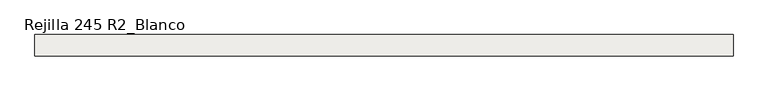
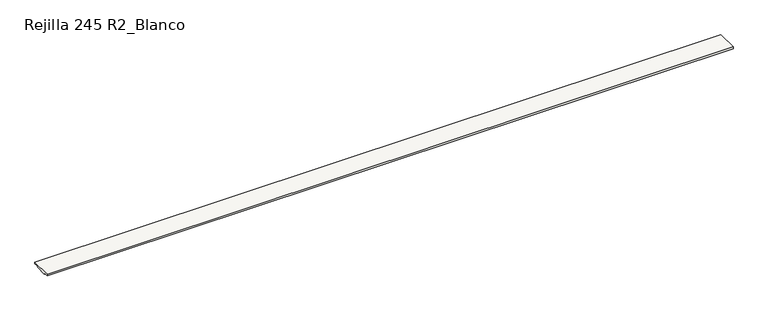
"""IFC4 building model written with IfcOpenShell, lengths in millimetres: slab geometry, ROSA GRES_245 R2 : Rejilla 245 R2_Blanco."""

import ifcopenshell
import ifcopenshell.guid

model = None  # the IFC model being written
_history = None  # IfcOwnerHistory: only IFC2X3 demands one
_inside = {}  # id of a spatial element -> (the spatial element, [elements in it])
_under = {}  # id of a project, library or spatial element -> (it, [spatial elements below it])
_declared = {}  # id of a project -> (the project, [libraries it declares])
_typed = {}  # id of a type object -> (the type object, [elements of that type])
_made_of = {}  # id of a material, layer set ... -> (it, [elements and type objects made of it])


def new_model(schema):
    """Start an empty IFC model of exactly this schema.

    Asked for "IFC4X3", IfcOpenShell would pick the latest addendum, in which some entities
    have other attributes; the version numbers below select the first issue.
    IFC2X3 requires an IfcOwnerHistory on every rooted entity: one is made here for all.
    """
    global model, _history
    if schema == "IFC4X3":
        model = ifcopenshell.file(schema_version=(4, 3, 0, 0))
    else:
        model = ifcopenshell.file(schema=schema)
    _inside.clear()
    _under.clear()
    _declared.clear()
    _typed.clear()
    _made_of.clear()
    _history = None
    if model.schema == "IFC2X3":
        org = make("IfcOrganization", Name="unknown")
        user = make(
            "IfcPersonAndOrganization",
            ThePerson=make("IfcPerson", FamilyName="unknown"),
            TheOrganization=org,
        )
        app = make(
            "IfcApplication",
            ApplicationDeveloper=org,
            Version="unknown",
            ApplicationFullName="unknown",
            ApplicationIdentifier="unknown",
        )
        _history = make(
            "IfcOwnerHistory",
            OwningUser=user,
            OwningApplication=app,
            ChangeAction="ADDED",
            CreationDate=0,
        )
    return model


def make(cls, **values):
    """One entity of the class cls with the attributes given. An attribute that is None is left unset."""
    return model.create_entity(
        cls, **{name: value for name, value in values.items() if value is not None}
    )


def rooted(cls, **values):
    """An entity with a GlobalId (a new one), such as an element, a storey or a relation."""
    return make(cls, GlobalId=ifcopenshell.guid.new(), OwnerHistory=_history, **values)


def si_unit(unit_type, name, prefix=None):
    """IfcSIUnit, for example si_unit("LENGTHUNIT", "METRE", prefix="MILLI")."""
    return make("IfcSIUnit", UnitType=unit_type, Prefix=prefix, Name=name)


def assignment(units):
    """IfcUnitAssignment: the units of a project."""
    return None if units is None else make("IfcUnitAssignment", Units=units)


def point(xyz):
    """IfcCartesianPoint."""
    return None if xyz is None else make("IfcCartesianPoint", Coordinates=xyz)


def direction(xyz):
    """IfcDirection."""
    return None if xyz is None else make("IfcDirection", DirectionRatios=xyz)


def frame(location, z_axis=None, x_axis=None):
    """IfcAxis2Placement3D, a coordinate frame: its origin and axes. An axis left out is left unset."""
    return make(
        "IfcAxis2Placement3D",
        Location=point(location),
        Axis=direction(z_axis),
        RefDirection=direction(x_axis),
    )


def origin():
    """The frame at (0, 0, 0) with its axes left unset."""
    return frame((0.0, 0.0, 0.0))


def place(relative_to, where):
    """IfcLocalPlacement: puts the frame where relative to a parent placement (None: the world)."""
    return make(
        "IfcLocalPlacement", PlacementRelTo=relative_to, RelativePlacement=where
    )


def context(
    kind, dimensions, precision=None, world=None, true_north=None, identifier=None
):
    """IfcGeometricRepresentationContext, for example the 3D "Model" context."""
    return make(
        "IfcGeometricRepresentationContext",
        ContextIdentifier=identifier,
        ContextType=kind,
        CoordinateSpaceDimension=dimensions,
        Precision=precision,
        WorldCoordinateSystem=world,
        TrueNorth=true_north,
    )


def project(units=None, contexts=None):
    """IfcProject with its units and contexts."""
    return rooted(
        "IfcProject",
        Name="project",
        RepresentationContexts=contexts,
        UnitsInContext=assignment(units),
    )


def spatial(cls, under=None, at=None, **own):
    """A site, building, storey or space (cls), placed at a placement, below another one or the project."""
    s = rooted(cls, ObjectPlacement=at, **own)
    if under is not None:
        _under.setdefault(under.id(), (under, []))[1].append(s)
    return s


def polyline(points):
    """IfcPolyline through the points."""
    return make("IfcPolyline", Points=[point(p) for p in points])


def outline(outer, holes=None, kind="AREA"):
    """IfcArbitraryClosedProfileDef: a profile drawn as a closed curve; with holes, ...WithVoids."""
    if holes is None:
        return make("IfcArbitraryClosedProfileDef", ProfileType=kind, OuterCurve=outer)
    return make(
        "IfcArbitraryProfileDefWithVoids",
        ProfileType=kind,
        OuterCurve=outer,
        InnerCurves=holes,
    )


def extrude(swept, where, along, depth):
    """IfcExtrudedAreaSolid: the profile swept, set in the frame where, extruded along a direction by depth."""
    return make(
        "IfcExtrudedAreaSolid",
        SweptArea=swept,
        Position=where,
        ExtrudedDirection=direction(along),
        Depth=depth,
    )


def shape(context_of_items, identifier, shape_type, items):
    """IfcShapeRepresentation: the items that make up one representation, for example the "Body"."""
    return make(
        "IfcShapeRepresentation",
        ContextOfItems=context_of_items,
        RepresentationIdentifier=identifier,
        RepresentationType=shape_type,
        Items=items,
    )


def source(mapping_origin, context_of_items, identifier, shape_type, items):
    """IfcRepresentationMap: a shape defined once, which mapped items show again and again."""
    return make(
        "IfcRepresentationMap",
        MappingOrigin=mapping_origin,
        MappedRepresentation=shape(context_of_items, identifier, shape_type, items),
    )


def transform(
    local_origin,
    x_axis=None,
    y_axis=None,
    z_axis=None,
    scale=None,
    scale2=None,
    scale3=None,
    uniform=True,
):
    """IfcCartesianTransformationOperator3D, or its non-uniform kind. x_axis, y_axis, z_axis: its Axis1, 2, 3."""
    if uniform:
        return make(
            "IfcCartesianTransformationOperator3D",
            Axis1=direction(x_axis),
            Axis2=direction(y_axis),
            LocalOrigin=point(local_origin),
            Scale=scale,
            Axis3=direction(z_axis),
        )
    return make(
        "IfcCartesianTransformationOperator3DnonUniform",
        Axis1=direction(x_axis),
        Axis2=direction(y_axis),
        LocalOrigin=point(local_origin),
        Scale=scale,
        Axis3=direction(z_axis),
        Scale2=scale2,
        Scale3=scale3,
    )


def mapped(mapping_source, mapping_target):
    """IfcMappedItem: shows the shape of a source again, moved by a transform."""
    return make(
        "IfcMappedItem", MappingSource=mapping_source, MappingTarget=mapping_target
    )


def made_of(thing, what):
    """Note that an element or type object is made of a material, layer set ...; save() writes the relation."""
    if what is not None:
        _made_of.setdefault(what.id(), (what, []))[1].append(thing)
    return thing


def element(
    cls,
    number,
    at=None,
    inside=None,
    cuts=None,
    type_object=None,
    material=None,
    context=None,
    identifier="Body",
    shape_type=None,
    held_by="IfcProductDefinitionShape",
    body=None,
    shapes=None,
    **own,
):
    """One element of the class cls, such as IfcWall. Its Tag is "e" and its number.

    at: its placement. inside: the storey or other place that contains it. cuts: it is an
    opening in that element (IfcRelVoidsElement). A single representation is given by context,
    identifier, shape_type and body (its items); several are given by shapes. held_by: the class
    of the entity that holds the representations. save() writes the other relations.
    """
    e = rooted(cls, Tag="e%d" % number, ObjectPlacement=at, **own)
    if body is not None:
        shapes = [shape(context, identifier, shape_type, body)]
    if shapes is not None:
        e.Representation = make(held_by, Representations=shapes)
    if inside is not None:
        _inside.setdefault(inside.id(), (inside, []))[1].append(e)
    if cuts is not None:
        rooted(
            "IfcRelVoidsElement", RelatingBuildingElement=cuts, RelatedOpeningElement=e
        )
    if type_object is not None:
        _typed.setdefault(type_object.id(), (type_object, []))[1].append(e)
    return made_of(e, material)


def aggregate(whole, parts):
    """IfcRelAggregates: a whole, such as a stair, and the parts it consists of."""
    return rooted("IfcRelAggregates", RelatingObject=whole, RelatedObjects=parts)


def save(model, path):
    """Write the relations noted so far, then the file.

    IfcRelAggregates (storeys below a building ...), IfcRelContainedInSpatialStructure (elements
    in a storey), IfcRelDefinesByType, IfcRelAssociatesMaterial and IfcRelDeclares: one each for
    every whole, place, type object, material and project.
    """
    for whole, parts in _under.values():
        aggregate(whole, parts)
    for where, things in _inside.values():
        rooted(
            "IfcRelContainedInSpatialStructure",
            RelatedElements=things,
            RelatingStructure=where,
        )
    for kind, things in _typed.values():
        rooted("IfcRelDefinesByType", RelatedObjects=things, RelatingType=kind)
    for what, things in _made_of.values():
        rooted("IfcRelAssociatesMaterial", RelatedObjects=things, RelatingMaterial=what)
    for by, libraries in _declared.values():
        rooted("IfcRelDeclares", RelatingContext=by, RelatedDefinitions=libraries)
    model.write(path)


def rejilla_245_r2_blanco_c39555f7(model_context):
    return source(origin(), model_context, "Body", "SweptSolid", [
        extrude(outline(polyline([(369.5908797, 206.3460936), (369.5908797, 228.3460936), (614.5908797, 228.3460936), (614.5908797, 206.3460936), (572.3142119, 206.3460936), (561.3142119, 195.3460936), (422.8675475, 195.3460936), (411.8675475, 206.3460936), (369.5908797, 206.3460936)])), frame((0.0, 0.0, 0.0), z_axis=(1.0, 0.0, 0.0), x_axis=(0.0, 1.0, 0.0)), (0.0, 0.0, 1.0), 7979.9817594),
    ])


if __name__ == "__main__":
    model = new_model("IFC4")
    model_context = context("Model", 3, world=origin())
    ifc_project = project(units=[si_unit("LENGTHUNIT", "METRE", prefix="MILLI")], contexts=[model_context])
    site = spatial("IfcSite", under=ifc_project)
    building = spatial("IfcBuilding", under=site)
    placement = place(None, origin())
    rejilla_245_r2_blanco_shape = rejilla_245_r2_blanco_c39555f7(model_context)
    element("IfcSlab", 1, ObjectType="ROSA GRES_245 R2 : Rejilla 245 R2_Blanco", at=placement, inside=building, context=model_context, shape_type="MappedRepresentation", body=[
        mapped(rejilla_245_r2_blanco_shape, transform((0.0, 0.0, 0.0), x_axis=(1.0, 0.0, 0.0), y_axis=(0.0, 1.0, 0.0), z_axis=(0.0, 0.0, 1.0))),
    ])
    save(model, "model.ifc")
